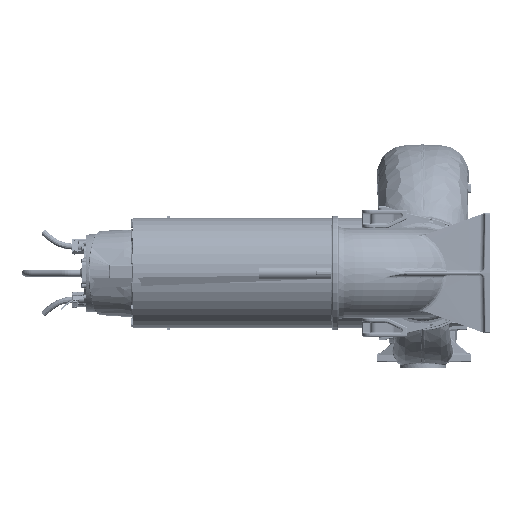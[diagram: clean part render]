
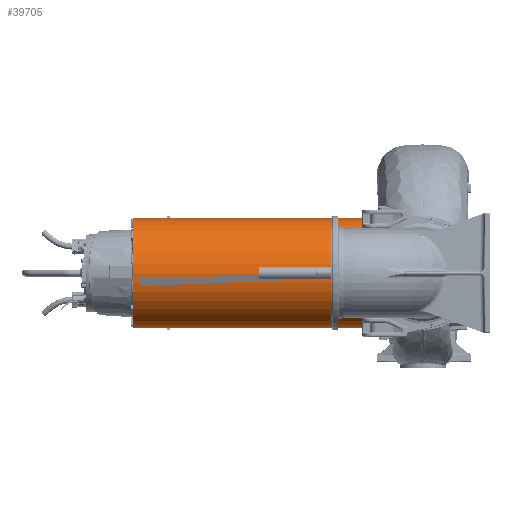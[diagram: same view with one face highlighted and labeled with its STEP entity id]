
A CAD part, left-side view. The second image highlights one B-rep face of the part: STEP entity #39705.
In plain terms, the highlighted cylindrical face has radius 391.5 mm (diameter 783 mm), a partial arc.
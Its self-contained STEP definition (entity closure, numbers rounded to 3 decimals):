
#3 = CARTESIAN_POINT ( 'NONE',  ( 1121.833, 2129.859, -391.5 ) ) ;
#9231 = VERTEX_POINT ( 'NONE', #14449 ) ;
#12955 = CARTESIAN_POINT ( 'NONE',  ( 1125., 705., -391.5 ) ) ;
#14449 = CARTESIAN_POINT ( 'NONE',  ( 1125., 2389., 391.5 ) ) ;
#18132 = AXIS2_PLACEMENT_3D ( 'NONE', #36819, #243264, #66463 ) ;
#25266 = DIRECTION ( 'NONE',  ( 0., 0., -1. ) ) ;
#27837 = CIRCLE ( 'NONE', #18132, 391.5 ) ;
#28284 = ORIENTED_EDGE ( 'NONE', *, *, #190665, .T. ) ;
#34927 = CARTESIAN_POINT ( 'NONE',  ( 1115.5, 2133.515, -391.385 ) ) ;
#35033 = CARTESIAN_POINT ( 'NONE',  ( 1121.833, 2148.141, -391.5 ) ) ;
#36819 = CARTESIAN_POINT ( 'NONE',  ( 1125., 2389., 0. ) ) ;
#37008 =( BOUNDED_CURVE ( )  B_SPLINE_CURVE ( 3, ( #172517, #349271, #232014, #55133 ),
 .UNSPECIFIED., .F., .F. ) 
 B_SPLINE_CURVE_WITH_KNOTS ( ( 4, 4 ),
 ( 4.712, 4.737 ),
 .UNSPECIFIED. ) 
 CURVE ( )  GEOMETRIC_REPRESENTATION_ITEM ( )  RATIONAL_B_SPLINE_CURVE ( ( 1., 1., 1., 1. ) ) 
 REPRESENTATION_ITEM ( '' )  );
#37869 = VECTOR ( 'NONE', #75778, 1000. ) ;
#39297 = CARTESIAN_POINT ( 'NONE',  ( 1125., 2529.349, -391.5 ) ) ;
#39554 = ORIENTED_EDGE ( 'NONE', *, *, #222893, .F. ) ;
#39705 = ADVANCED_FACE ( 'NONE', ( #278787 ), #93968, .T. ) ;
#49246 = VERTEX_POINT ( 'NONE', #338436 ) ;
#55133 = CARTESIAN_POINT ( 'NONE',  ( 1115.5, 2133.515, 391.385 ) ) ;
#61144 = CARTESIAN_POINT ( 'NONE',  ( 1121.833, 2148.141, 391.5 ) ) ;
#66463 = DIRECTION ( 'NONE',  ( 0., 0., -1. ) ) ;
#68565 = ORIENTED_EDGE ( 'NONE', *, *, #247690, .F. ) ;
#68904 = DIRECTION ( 'NONE',  ( 0., 1., 0. ) ) ;
#71182 = ORIENTED_EDGE ( 'NONE', *, *, #235327, .F. ) ;
#73217 = AXIS2_PLACEMENT_3D ( 'NONE', #378711, #202125, #25266 ) ;
#75778 = DIRECTION ( 'NONE',  ( 0., 1., 0. ) ) ;
#76181 = EDGE_CURVE ( 'NONE', #49246, #247590, #201302, .T. ) ;
#80583 = ORIENTED_EDGE ( 'NONE', *, *, #95401, .T. ) ;
#81607 = VECTOR ( 'NONE', #352733, 1000. ) ;
#84431 = VERTEX_POINT ( 'NONE', #12955 ) ;
#86421 = CARTESIAN_POINT ( 'NONE',  ( 1125., 2529.349, 391.5 ) ) ;
#87398 = VECTOR ( 'NONE', #68904, 1000. ) ;
#88846 = CARTESIAN_POINT ( 'NONE',  ( 1115.5, 2133.515, -391.385 ) ) ;
#93968 = CYLINDRICAL_SURFACE ( 'NONE', #111836, 391.5 ) ;
#93974 = VERTEX_POINT ( 'NONE', #341371 ) ;
#95401 = EDGE_CURVE ( 'NONE', #84431, #249822, #134674, .T. ) ;
#101959 = ORIENTED_EDGE ( 'NONE', *, *, #323219, .T. ) ;
#104992 = CARTESIAN_POINT ( 'NONE',  ( 1115.5, 2144.485, 391.385 ) ) ;
#111836 = AXIS2_PLACEMENT_3D ( 'NONE', #293066, #381989, #147206 ) ;
#116138 = DIRECTION ( 'NONE',  ( 0., 1., 0. ) ) ;
#116649 = CARTESIAN_POINT ( 'NONE',  ( 1125., 2529.349, -391.5 ) ) ;
#119688 = LINE ( 'NONE', #320016, #267475 ) ;
#126043 = EDGE_CURVE ( 'NONE', #247590, #339530, #382629, .T. ) ;
#134674 = CIRCLE ( 'NONE', #73217, 391.5 ) ;
#147206 = DIRECTION ( 'NONE',  ( 0., 0., -1. ) ) ;
#150143 = CARTESIAN_POINT ( 'NONE',  ( 1125., 2149.97, 391.5 ) ) ;
#152427 = CARTESIAN_POINT ( 'NONE',  ( 1118.666, 2146.313, -391.462 ) ) ;
#155949 = VERTEX_POINT ( 'NONE', #249972 ) ;
#172517 = CARTESIAN_POINT ( 'NONE',  ( 1125., 2128.03, 391.5 ) ) ;
#172993 = CARTESIAN_POINT ( 'NONE',  ( 1115.5, 2529.349, 391.385 ) ) ;
#174658 = ORIENTED_EDGE ( 'NONE', *, *, #339108, .F. ) ;
#176689 = CARTESIAN_POINT ( 'NONE',  ( 1125., 2128.03, -391.5 ) ) ;
#176768 = LINE ( 'NONE', #86421, #324452 ) ;
#190665 = EDGE_CURVE ( 'NONE', #339530, #9231, #119688, .T. ) ;
#194901 = LINE ( 'NONE', #282244, #37869 ) ;
#197951 = EDGE_CURVE ( 'NONE', #365897, #9231, #27837, .T. ) ;
#201302 = LINE ( 'NONE', #172993, #358129 ) ;
#202125 = DIRECTION ( 'NONE',  ( 0., 1., 0. ) ) ;
#208367 = CARTESIAN_POINT ( 'NONE',  ( 1118.666, 2146.313, 391.462 ) ) ;
#216478 = CARTESIAN_POINT ( 'NONE',  ( 1125., 2149.97, -391.5 ) ) ;
#220975 = ORIENTED_EDGE ( 'NONE', *, *, #76181, .T. ) ;
#222893 = EDGE_CURVE ( 'NONE', #307785, #365897, #238743, .T. ) ;
#228356 = ORIENTED_EDGE ( 'NONE', *, *, #337880, .T. ) ;
#231735 = CARTESIAN_POINT ( 'NONE',  ( 1125., 2128.03, 391.5 ) ) ;
#232014 = CARTESIAN_POINT ( 'NONE',  ( 1118.666, 2131.687, 391.462 ) ) ;
#235327 = EDGE_CURVE ( 'NONE', #282211, #93974, #194901, .T. ) ;
#238743 = LINE ( 'NONE', #116649, #81607 ) ;
#241541 = CARTESIAN_POINT ( 'NONE',  ( 1125., 2149.97, -391.5 ) ) ;
#242367 =( BOUNDED_CURVE ( )  B_SPLINE_CURVE ( 3, ( #176689, #3, #265756, #88846 ),
 .UNSPECIFIED., .F., .F. ) 
 B_SPLINE_CURVE_WITH_KNOTS ( ( 4, 4 ),
 ( 4.712, 4.737 ),
 .UNSPECIFIED. ) 
 CURVE ( )  GEOMETRIC_REPRESENTATION_ITEM ( )  RATIONAL_B_SPLINE_CURVE ( ( 1., 1., 1., 1. ) ) 
 REPRESENTATION_ITEM ( '' )  );
#243264 = DIRECTION ( 'NONE',  ( 0., 1., 0. ) ) ;
#247590 = VERTEX_POINT ( 'NONE', #104992 ) ;
#247690 = EDGE_CURVE ( 'NONE', #93974, #307785, #288677, .T. ) ;
#249822 = VERTEX_POINT ( 'NONE', #289836 ) ;
#249972 = CARTESIAN_POINT ( 'NONE',  ( 1125., 2128.03, -391.5 ) ) ;
#255533 = VERTEX_POINT ( 'NONE', #231735 ) ;
#265756 = CARTESIAN_POINT ( 'NONE',  ( 1118.666, 2131.687, -391.462 ) ) ;
#267475 = VECTOR ( 'NONE', #349656, 1000. ) ;
#278787 = FACE_OUTER_BOUND ( 'NONE', #355971, .T. ) ;
#281842 = ORIENTED_EDGE ( 'NONE', *, *, #126043, .T. ) ;
#282211 = VERTEX_POINT ( 'NONE', #34927 ) ;
#282244 = CARTESIAN_POINT ( 'NONE',  ( 1115.5, 2529.349, -391.385 ) ) ;
#288677 =( BOUNDED_CURVE ( )  B_SPLINE_CURVE ( 3, ( #327927, #152427, #35033, #241541 ),
 .UNSPECIFIED., .F., .F. ) 
 B_SPLINE_CURVE_WITH_KNOTS ( ( 4, 4 ),
 ( 4.688, 4.712 ),
 .UNSPECIFIED. ) 
 CURVE ( )  GEOMETRIC_REPRESENTATION_ITEM ( )  RATIONAL_B_SPLINE_CURVE ( ( 1., 1., 1., 1. ) ) 
 REPRESENTATION_ITEM ( '' )  );
#289836 = CARTESIAN_POINT ( 'NONE',  ( 1125., 705., 391.5 ) ) ;
#293066 = CARTESIAN_POINT ( 'NONE',  ( 1125., 2529.349, 0. ) ) ;
#301517 = ORIENTED_EDGE ( 'NONE', *, *, #306958, .F. ) ;
#306958 = EDGE_CURVE ( 'NONE', #84431, #155949, #322982, .T. ) ;
#307785 = VERTEX_POINT ( 'NONE', #216478 ) ;
#320016 = CARTESIAN_POINT ( 'NONE',  ( 1125., 2529.349, 391.5 ) ) ;
#322982 = LINE ( 'NONE', #39297, #87398 ) ;
#323219 = EDGE_CURVE ( 'NONE', #255533, #49246, #37008, .T. ) ;
#324452 = VECTOR ( 'NONE', #116138, 1000. ) ;
#326890 = CARTESIAN_POINT ( 'NONE',  ( 1115.5, 2144.485, 391.385 ) ) ;
#327927 = CARTESIAN_POINT ( 'NONE',  ( 1115.5, 2144.485, -391.385 ) ) ;
#327971 = CARTESIAN_POINT ( 'NONE',  ( 1125., 2389., -391.5 ) ) ;
#337880 = EDGE_CURVE ( 'NONE', #249822, #255533, #176768, .T. ) ;
#338436 = CARTESIAN_POINT ( 'NONE',  ( 1115.5, 2133.515, 391.385 ) ) ;
#339108 = EDGE_CURVE ( 'NONE', #155949, #282211, #242367, .T. ) ;
#339530 = VERTEX_POINT ( 'NONE', #346558 ) ;
#341371 = CARTESIAN_POINT ( 'NONE',  ( 1115.5, 2144.485, -391.385 ) ) ;
#346558 = CARTESIAN_POINT ( 'NONE',  ( 1125., 2149.97, 391.5 ) ) ;
#347101 = ORIENTED_EDGE ( 'NONE', *, *, #197951, .F. ) ;
#349271 = CARTESIAN_POINT ( 'NONE',  ( 1121.833, 2129.859, 391.5 ) ) ;
#349656 = DIRECTION ( 'NONE',  ( 0., 1., 0. ) ) ;
#352733 = DIRECTION ( 'NONE',  ( 0., 1., 0. ) ) ;
#355971 = EDGE_LOOP ( 'NONE', ( #80583, #228356, #101959, #220975, #281842, #28284, #347101, #39554, #68565, #71182, #174658, #301517 ) ) ;
#358129 = VECTOR ( 'NONE', #379401, 1000. ) ;
#365897 = VERTEX_POINT ( 'NONE', #327971 ) ;
#378711 = CARTESIAN_POINT ( 'NONE',  ( 1125., 705., 0. ) ) ;
#379401 = DIRECTION ( 'NONE',  ( 0., 1., 0. ) ) ;
#381989 = DIRECTION ( 'NONE',  ( 0., 1., 0. ) ) ;
#382629 =( BOUNDED_CURVE ( )  B_SPLINE_CURVE ( 3, ( #326890, #208367, #61144, #150143 ),
 .UNSPECIFIED., .F., .F. ) 
 B_SPLINE_CURVE_WITH_KNOTS ( ( 4, 4 ),
 ( 4.688, 4.712 ),
 .UNSPECIFIED. ) 
 CURVE ( )  GEOMETRIC_REPRESENTATION_ITEM ( )  RATIONAL_B_SPLINE_CURVE ( ( 1., 1., 1., 1. ) ) 
 REPRESENTATION_ITEM ( '' )  );
